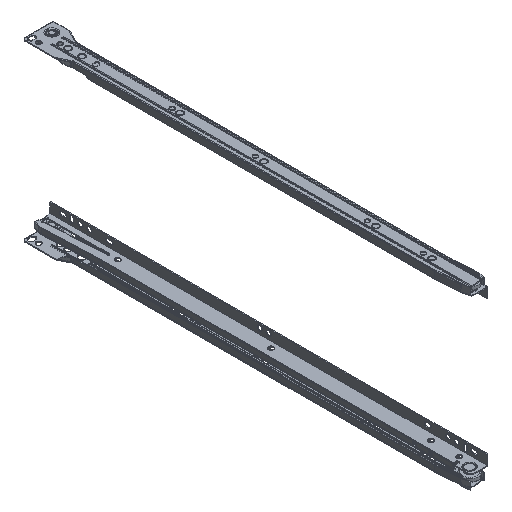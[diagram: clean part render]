
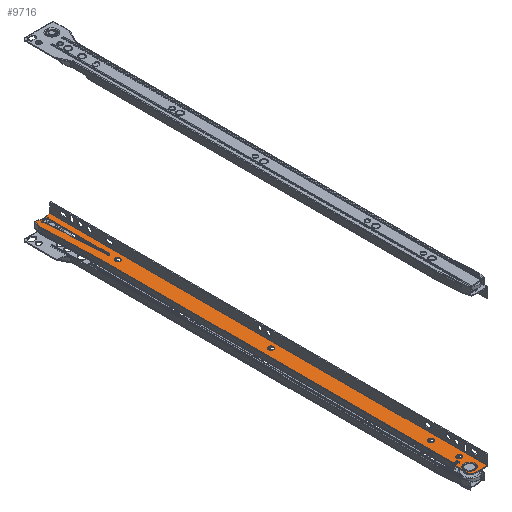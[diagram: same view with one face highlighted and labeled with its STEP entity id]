
A CAD part, isometric view. The second image highlights one B-rep face of the part: STEP entity #9716.
In plain terms, the highlighted planar face has unit normal (0, 0, 1) as drawn and (0, 0, -1) by its records, which use the part's own axes.
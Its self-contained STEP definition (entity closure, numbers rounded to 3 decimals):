
#451=ELLIPSE('',#10614,4.383,1.);
#915=LINE('',#15898,#1704);
#932=LINE('',#15964,#1721);
#949=LINE('',#16025,#1738);
#952=LINE('',#16037,#1741);
#957=LINE('',#16046,#1746);
#959=LINE('',#16053,#1748);
#960=LINE('',#16057,#1749);
#961=LINE('',#16061,#1750);
#962=LINE('',#16065,#1751);
#963=LINE('',#16067,#1752);
#964=LINE('',#16068,#1753);
#965=LINE('',#16081,#1754);
#966=LINE('',#16084,#1755);
#1704=VECTOR('',#12634,10.);
#1721=VECTOR('',#12691,10.);
#1738=VECTOR('',#12754,10.);
#1741=VECTOR('',#12769,10.);
#1746=VECTOR('',#12780,10.);
#1748=VECTOR('',#12788,10.);
#1749=VECTOR('',#12791,10.);
#1750=VECTOR('',#12794,10.);
#1751=VECTOR('',#12797,10.);
#1752=VECTOR('',#12798,10.);
#1753=VECTOR('',#12799,10.);
#1754=VECTOR('',#12810,10.);
#1755=VECTOR('',#12813,10.);
#2204=PLANE('',#10604);
#2438=FACE_BOUND('',#3580,.T.);
#2439=FACE_BOUND('',#3581,.T.);
#2440=FACE_BOUND('',#3582,.T.);
#2441=FACE_BOUND('',#3583,.T.);
#2442=FACE_BOUND('',#3584,.T.);
#2443=FACE_BOUND('',#3585,.T.);
#2894=FACE_OUTER_BOUND('',#3579,.T.);
#3579=EDGE_LOOP('',(#8131,#8132,#8133,#8134,#8135,#8136,#8137,#8138,#8139,
#8140,#8141,#8142,#8143,#8144,#8145,#8146,#8147));
#3580=EDGE_LOOP('',(#8148));
#3581=EDGE_LOOP('',(#8149));
#3582=EDGE_LOOP('',(#8150));
#3583=EDGE_LOOP('',(#8151));
#3584=EDGE_LOOP('',(#8152));
#3585=EDGE_LOOP('',(#8153,#8154,#8155,#8156));
#4116=CIRCLE('',#10553,2.75);
#4118=CIRCLE('',#10556,17.5);
#4144=CIRCLE('',#10598,9.5);
#4145=CIRCLE('',#10605,1.);
#4146=CIRCLE('',#10606,1.);
#4147=CIRCLE('',#10607,1.);
#4148=CIRCLE('',#10608,3.);
#4149=CIRCLE('',#10609,2.75);
#4150=CIRCLE('',#10610,2.75);
#4151=CIRCLE('',#10611,6.25);
#4152=CIRCLE('',#10612,2.75);
#4153=CIRCLE('',#10613,1.03);
#4827=VERTEX_POINT('',#15869);
#4837=VERTEX_POINT('',#15896);
#4839=VERTEX_POINT('',#15902);
#4840=VERTEX_POINT('',#15905);
#4843=VERTEX_POINT('',#15910);
#4866=VERTEX_POINT('',#15962);
#4887=VERTEX_POINT('',#16024);
#4890=VERTEX_POINT('',#16031);
#4891=VERTEX_POINT('',#16044);
#4892=VERTEX_POINT('',#16050);
#4893=VERTEX_POINT('',#16052);
#4894=VERTEX_POINT('',#16054);
#4895=VERTEX_POINT('',#16056);
#4896=VERTEX_POINT('',#16058);
#4897=VERTEX_POINT('',#16060);
#4898=VERTEX_POINT('',#16062);
#4899=VERTEX_POINT('',#16064);
#4900=VERTEX_POINT('',#16066);
#4901=VERTEX_POINT('',#16069);
#4902=VERTEX_POINT('',#16071);
#4903=VERTEX_POINT('',#16073);
#4904=VERTEX_POINT('',#16075);
#4905=VERTEX_POINT('',#16077);
#4906=VERTEX_POINT('',#16078);
#4907=VERTEX_POINT('',#16080);
#4908=VERTEX_POINT('',#16082);
#5974=EDGE_CURVE('',#4827,#4837,#915,.T.);
#5976=EDGE_CURVE('',#4839,#4839,#4116,.T.);
#5980=EDGE_CURVE('',#4843,#4840,#4118,.T.);
#6007=EDGE_CURVE('',#4866,#4843,#932,.T.);
#6036=EDGE_CURVE('',#4887,#4827,#949,.T.);
#6041=EDGE_CURVE('',#4890,#4887,#4144,.T.);
#6043=EDGE_CURVE('',#4866,#4890,#952,.T.);
#6048=EDGE_CURVE('',#4891,#4837,#957,.T.);
#6050=EDGE_CURVE('',#4892,#4891,#4145,.T.);
#6051=EDGE_CURVE('',#4893,#4892,#959,.T.);
#6052=EDGE_CURVE('',#4894,#4893,#4146,.T.);
#6053=EDGE_CURVE('',#4895,#4894,#960,.T.);
#6054=EDGE_CURVE('',#4896,#4895,#4147,.T.);
#6055=EDGE_CURVE('',#4897,#4896,#961,.T.);
#6056=EDGE_CURVE('',#4898,#4897,#4148,.T.);
#6057=EDGE_CURVE('',#4899,#4898,#962,.T.);
#6058=EDGE_CURVE('',#4900,#4899,#963,.T.);
#6059=EDGE_CURVE('',#4840,#4900,#964,.T.);
#6060=EDGE_CURVE('',#4901,#4901,#4149,.T.);
#6061=EDGE_CURVE('',#4902,#4902,#4150,.T.);
#6062=EDGE_CURVE('',#4903,#4903,#4151,.T.);
#6063=EDGE_CURVE('',#4904,#4904,#4152,.T.);
#6064=EDGE_CURVE('',#4905,#4906,#4153,.T.);
#6065=EDGE_CURVE('',#4907,#4905,#965,.T.);
#6066=EDGE_CURVE('',#4908,#4907,#451,.T.);
#6067=EDGE_CURVE('',#4906,#4908,#966,.T.);
#8131=ORIENTED_EDGE('',*,*,#5980,.F.);
#8132=ORIENTED_EDGE('',*,*,#6007,.F.);
#8133=ORIENTED_EDGE('',*,*,#6043,.T.);
#8134=ORIENTED_EDGE('',*,*,#6041,.T.);
#8135=ORIENTED_EDGE('',*,*,#6036,.T.);
#8136=ORIENTED_EDGE('',*,*,#5974,.T.);
#8137=ORIENTED_EDGE('',*,*,#6048,.F.);
#8138=ORIENTED_EDGE('',*,*,#6050,.F.);
#8139=ORIENTED_EDGE('',*,*,#6051,.F.);
#8140=ORIENTED_EDGE('',*,*,#6052,.F.);
#8141=ORIENTED_EDGE('',*,*,#6053,.F.);
#8142=ORIENTED_EDGE('',*,*,#6054,.F.);
#8143=ORIENTED_EDGE('',*,*,#6055,.F.);
#8144=ORIENTED_EDGE('',*,*,#6056,.F.);
#8145=ORIENTED_EDGE('',*,*,#6057,.F.);
#8146=ORIENTED_EDGE('',*,*,#6058,.F.);
#8147=ORIENTED_EDGE('',*,*,#6059,.F.);
#8148=ORIENTED_EDGE('',*,*,#5976,.F.);
#8149=ORIENTED_EDGE('',*,*,#6060,.F.);
#8150=ORIENTED_EDGE('',*,*,#6061,.F.);
#8151=ORIENTED_EDGE('',*,*,#6062,.F.);
#8152=ORIENTED_EDGE('',*,*,#6063,.F.);
#8153=ORIENTED_EDGE('',*,*,#6064,.F.);
#8154=ORIENTED_EDGE('',*,*,#6065,.F.);
#8155=ORIENTED_EDGE('',*,*,#6066,.F.);
#8156=ORIENTED_EDGE('',*,*,#6067,.F.);
#9716=ADVANCED_FACE('',(#2894,#2438,#2439,#2440,#2441,#2442,#2443),#2204,
 .T.);
#10553=AXIS2_PLACEMENT_3D('',#15903,#12639,#12640);
#10556=AXIS2_PLACEMENT_3D('',#15912,#12647,#12648);
#10598=AXIS2_PLACEMENT_3D('',#16034,#12764,#12765);
#10604=AXIS2_PLACEMENT_3D('',#16049,#12784,#12785);
#10605=AXIS2_PLACEMENT_3D('',#16051,#12786,#12787);
#10606=AXIS2_PLACEMENT_3D('',#16055,#12789,#12790);
#10607=AXIS2_PLACEMENT_3D('',#16059,#12792,#12793);
#10608=AXIS2_PLACEMENT_3D('',#16063,#12795,#12796);
#10609=AXIS2_PLACEMENT_3D('',#16070,#12800,#12801);
#10610=AXIS2_PLACEMENT_3D('',#16072,#12802,#12803);
#10611=AXIS2_PLACEMENT_3D('',#16074,#12804,#12805);
#10612=AXIS2_PLACEMENT_3D('',#16076,#12806,#12807);
#10613=AXIS2_PLACEMENT_3D('',#16079,#12808,#12809);
#10614=AXIS2_PLACEMENT_3D('',#16083,#12811,#12812);
#12634=DIRECTION('',(-1.,0.,0.));
#12639=DIRECTION('center_axis',(0.,0.,-1.));
#12640=DIRECTION('ref_axis',(-1.,0.,0.));
#12647=DIRECTION('center_axis',(0.,0.,-1.));
#12648=DIRECTION('ref_axis',(-1.,0.,0.));
#12691=DIRECTION('',(0.,1.,0.));
#12754=DIRECTION('',(-0.999,0.04,0.));
#12764=DIRECTION('center_axis',(0.,0.,-1.));
#12765=DIRECTION('ref_axis',(0.141,-0.99,0.));
#12769=DIRECTION('',(-0.948,-0.318,0.));
#12780=DIRECTION('',(0.,-1.,0.));
#12784=DIRECTION('center_axis',(0.,0.,-1.));
#12785=DIRECTION('ref_axis',(1.,0.,0.));
#12786=DIRECTION('center_axis',(0.,0.,-1.));
#12787=DIRECTION('ref_axis',(0.,1.,0.));
#12788=DIRECTION('',(1.,0.,0.));
#12789=DIRECTION('center_axis',(0.,0.,-1.));
#12790=DIRECTION('ref_axis',(-1.,0.,0.));
#12791=DIRECTION('',(0.,1.,0.));
#12792=DIRECTION('center_axis',(0.,0.,1.));
#12793=DIRECTION('ref_axis',(-1.,0.,0.));
#12794=DIRECTION('',(1.,0.,0.));
#12795=DIRECTION('center_axis',(0.,0.,1.));
#12796=DIRECTION('ref_axis',(0.,1.,0.));
#12797=DIRECTION('',(0.,-1.,0.));
#12798=DIRECTION('',(-1.,0.,0.));
#12799=DIRECTION('',(0.,1.,0.));
#12800=DIRECTION('center_axis',(0.,0.,-1.));
#12801=DIRECTION('ref_axis',(-1.,0.,0.));
#12802=DIRECTION('center_axis',(0.,0.,-1.));
#12803=DIRECTION('ref_axis',(-1.,0.,0.));
#12804=DIRECTION('center_axis',(0.,0.,-1.));
#12805=DIRECTION('ref_axis',(-1.,0.,0.));
#12806=DIRECTION('center_axis',(0.,0.,-1.));
#12807=DIRECTION('ref_axis',(-1.,0.,0.));
#12808=DIRECTION('center_axis',(0.,0.,-1.));
#12809=DIRECTION('ref_axis',(1.,-0.03,0.));
#12810=DIRECTION('',(-0.998,0.061,0.));
#12811=DIRECTION('center_axis',(0.,0.,-1.));
#12812=DIRECTION('ref_axis',(-0.03,-1.,0.));
#12813=DIRECTION('',(1.,0.,0.));
#15869=CARTESIAN_POINT('',(393.766,-28.491,0.));
#15896=CARTESIAN_POINT('',(-9.244,-28.491,0.));
#15898=CARTESIAN_POINT('',(104.091,-28.491,0.));
#15902=CARTESIAN_POINT('',(-3.494,-18.991,0.));
#15903=CARTESIAN_POINT('Origin',(-6.244,-18.991,0.));
#15905=CARTESIAN_POINT('',(468.756,-12.193,0.));
#15910=CARTESIAN_POINT('',(468.756,-26.737,0.));
#15912=CARTESIAN_POINT('Origin',(484.674,-19.465,0.));
#15962=CARTESIAN_POINT('',(468.756,-28.464,0.));
#15964=CARTESIAN_POINT('',(468.756,-31.991,0.));
#16024=CARTESIAN_POINT('',(458.941,-31.098,0.));
#16025=CARTESIAN_POINT('',(305.576,-24.964,0.));
#16031=CARTESIAN_POINT('',(462.339,-30.614,0.));
#16034=CARTESIAN_POINT('Origin',(459.321,-21.606,0.));
#16037=CARTESIAN_POINT('',(352.937,-67.263,0.));
#16044=CARTESIAN_POINT('',(-9.244,-24.991,0.));
#16046=CARTESIAN_POINT('',(-9.244,-24.991,0.));
#16049=CARTESIAN_POINT('Origin',(217.426,-20.193,0.));
#16050=CARTESIAN_POINT('',(-10.244,-23.991,0.));
#16051=CARTESIAN_POINT('Origin',(-10.244,-24.991,0.));
#16052=CARTESIAN_POINT('',(-11.244,-23.991,0.));
#16053=CARTESIAN_POINT('',(-11.244,-23.991,0.));
#16054=CARTESIAN_POINT('',(-12.244,-24.991,0.));
#16055=CARTESIAN_POINT('Origin',(-11.244,-24.991,0.));
#16056=CARTESIAN_POINT('',(-12.244,-28.991,0.));
#16057=CARTESIAN_POINT('',(-12.244,-28.991,0.));
#16058=CARTESIAN_POINT('',(-13.244,-29.991,0.));
#16059=CARTESIAN_POINT('Origin',(-13.244,-28.991,0.));
#16060=CARTESIAN_POINT('',(-28.244,-29.991,0.));
#16061=CARTESIAN_POINT('',(-28.244,-29.991,0.));
#16062=CARTESIAN_POINT('',(-31.244,-26.991,0.));
#16063=CARTESIAN_POINT('Origin',(-28.244,-26.991,0.));
#16064=CARTESIAN_POINT('',(-31.244,-11.991,0.));
#16065=CARTESIAN_POINT('',(-31.244,-10.991,0.));
#16066=CARTESIAN_POINT('',(468.756,-11.991,0.));
#16067=CARTESIAN_POINT('',(218.091,-11.991,0.));
#16068=CARTESIAN_POINT('',(468.756,-31.991,0.));
#16069=CARTESIAN_POINT('',(28.506,-18.991,0.));
#16070=CARTESIAN_POINT('Origin',(25.756,-18.991,0.));
#16071=CARTESIAN_POINT('',(211.506,-18.991,0.));
#16072=CARTESIAN_POINT('Origin',(208.756,-18.991,0.));
#16073=CARTESIAN_POINT('',(-15.994,-22.991,0.));
#16074=CARTESIAN_POINT('Origin',(-22.244,-22.991,0.));
#16075=CARTESIAN_POINT('',(386.506,-18.991,0.));
#16076=CARTESIAN_POINT('Origin',(383.756,-18.991,0.));
#16077=CARTESIAN_POINT('',(394.693,-20.049,0.));
#16078=CARTESIAN_POINT('',(394.756,-17.992,0.));
#16079=CARTESIAN_POINT('Origin',(394.756,-19.021,0.));
#16080=CARTESIAN_POINT('',(463.929,-24.249,0.));
#16081=CARTESIAN_POINT('',(341.007,-16.793,0.));
#16082=CARTESIAN_POINT('',(464.119,-17.992,0.));
#16083=CARTESIAN_POINT('Origin',(464.724,-21.142,0.));
#16084=CARTESIAN_POINT('',(306.091,-17.992,0.));
